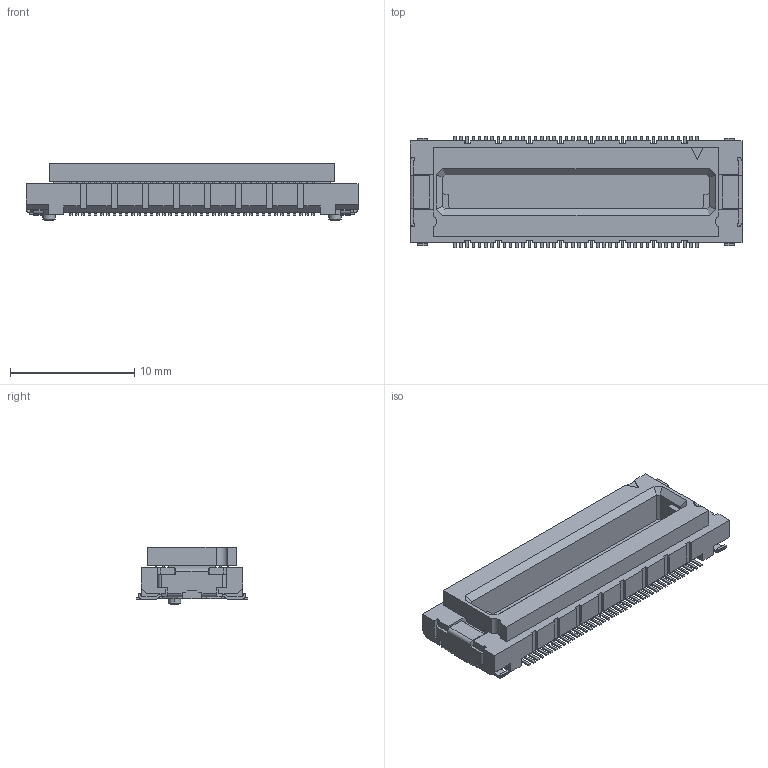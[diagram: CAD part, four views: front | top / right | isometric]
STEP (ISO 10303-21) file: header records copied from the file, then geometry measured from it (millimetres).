
FILE_DESCRIPTION(('Creo Elements/Direct Modeling STEP Export'),'2;1');
FILE_NAME('P39563_DY01-080S.stp','2017-08-10T14:28:45',(''),(''),'Creo Elements/Direct Modeling STEP processor for AP214 (Solid Model)','Creo Elements/Direct Modeling 19.0F 14-Feb-2017 (C) Parametric Technology GmbH','');
FILE_SCHEMA(('AUTOMOTIVE_DESIGN { 1 0 10303 214 1 1 1 1 }'));
Products named in the file (2): DY01-080S
Assembly tree (1 placements, depth 2):
  DY01-080S
    DY01-080S
Bounding box: 26.7 x 9 x 4.65 mm (x, y, z)
Volume: 559.5 mm3; surface area: 1207.6 mm2
Topology: 1 solids, 1 shells, 2503 faces, 6995 edges, 4658 vertices
Faces by surface type: plane 2130, cylinder 369, cone 4
Entity records: 79581 total; most frequent: CARTESIAN_POINT 14043, ORIENTED_EDGE 13990, DIRECTION 12605, EDGE_CURVE 6995, VECTOR 6165, LINE 6165, VERTEX_POINT 4658, AXIS2_PLACEMENT_3D 3220
